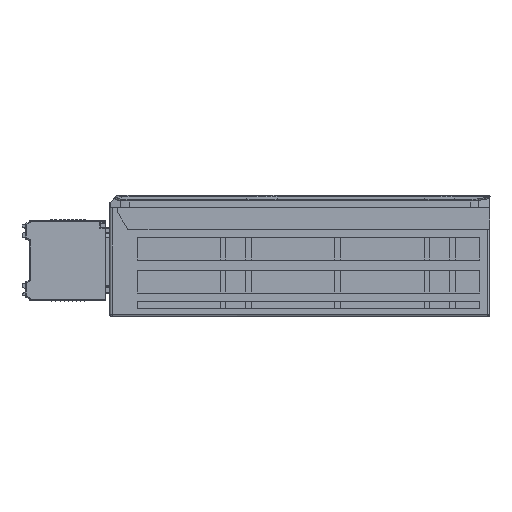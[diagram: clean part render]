
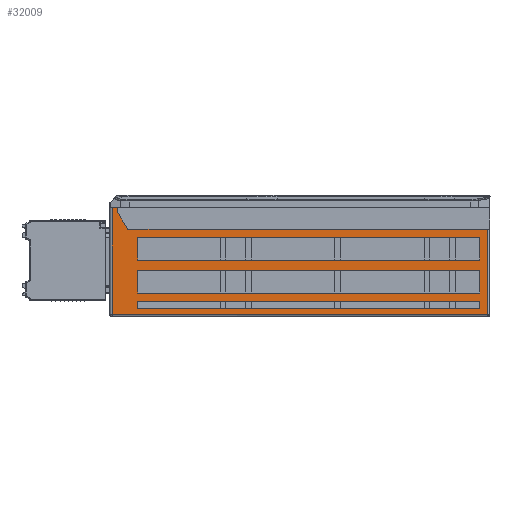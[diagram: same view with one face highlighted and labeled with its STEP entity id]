
A CAD part, left-side view. The second image highlights one B-rep face of the part: STEP entity #32009.
In plain terms, the highlighted planar face has unit normal (-1, 0, 0).
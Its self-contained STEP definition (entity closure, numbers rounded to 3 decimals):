
#727=DIRECTION('',(0.,1.,0.));
#728=VECTOR('',#727,1.1);
#729=CARTESIAN_POINT('',(0.,73.4,21.5));
#730=LINE('',#729,#728);
#6641=DIRECTION('',(0.,0.,-1.));
#6642=VECTOR('',#6641,21.);
#6643=CARTESIAN_POINT('',(0.,74.5,21.5));
#6644=LINE('',#6643,#6642);
#6649=DIRECTION('',(0.,0.53,0.848));
#6650=VECTOR('',#6649,3.774);
#6651=CARTESIAN_POINT('',(0.,71.4,17.3));
#6652=LINE('',#6651,#6650);
#6653=DIRECTION('',(0.,1.,0.));
#6654=VECTOR('',#6653,70.9);
#6655=CARTESIAN_POINT('',(0.,0.5,17.3));
#6656=LINE('',#6655,#6654);
#6657=DIRECTION('',(0.,-1.,0.));
#6658=VECTOR('',#6657,67.5);
#6659=CARTESIAN_POINT('',(0.,69.5,9.2));
#6660=LINE('',#6659,#6658);
#6661=DIRECTION('',(0.,1.,0.));
#6662=VECTOR('',#6661,67.5);
#6663=CARTESIAN_POINT('',(0.,2.,4.7));
#6664=LINE('',#6663,#6662);
#6665=DIRECTION('',(0.,0.,-1.));
#6666=VECTOR('',#6665,4.5);
#6667=CARTESIAN_POINT('',(0.,2.,9.2));
#6668=LINE('',#6667,#6666);
#6669=DIRECTION('',(0.,1.,0.));
#6670=VECTOR('',#6669,67.5);
#6671=CARTESIAN_POINT('',(0.,2.,1.6));
#6672=LINE('',#6671,#6670);
#6673=DIRECTION('',(0.,0.,-1.));
#6674=VECTOR('',#6673,1.5);
#6675=CARTESIAN_POINT('',(0.,2.,3.1));
#6676=LINE('',#6675,#6674);
#6677=DIRECTION('',(0.,-1.,0.));
#6678=VECTOR('',#6677,67.5);
#6679=CARTESIAN_POINT('',(0.,69.5,3.1));
#6680=LINE('',#6679,#6678);
#6685=DIRECTION('',(0.,0.,-1.));
#6686=VECTOR('',#6685,1.);
#6687=CARTESIAN_POINT('',(0.,73.4,21.5));
#6688=LINE('',#6687,#6686);
#7939=DIRECTION('',(0.,-1.,0.));
#7940=VECTOR('',#7939,74.);
#7941=CARTESIAN_POINT('',(0.,74.5,0.5));
#7942=LINE('',#7941,#7940);
#8008=CARTESIAN_POINT('',(0.,0.5,0.5));
#8010=DIRECTION('',(0.,0.,1.));
#8011=VECTOR('',#8010,16.8);
#8012=CARTESIAN_POINT('',(0.,0.5,0.5));
#8013=LINE('',#8012,#8011);
#12688=DIRECTION('',(0.,-1.,0.));
#12689=VECTOR('',#12688,67.5);
#12690=CARTESIAN_POINT('',(0.,69.5,15.7));
#12691=LINE('',#12690,#12689);
#12700=DIRECTION('',(0.,1.,0.));
#12701=VECTOR('',#12700,67.5);
#12702=CARTESIAN_POINT('',(0.,2.,11.2));
#12703=LINE('',#12702,#12701);
#12744=DIRECTION('',(0.,0.,1.));
#12745=VECTOR('',#12744,4.5);
#12746=CARTESIAN_POINT('',(0.,2.,11.2));
#12747=LINE('',#12746,#12745);
#12760=DIRECTION('',(0.,0.,-1.));
#12761=VECTOR('',#12760,4.5);
#12762=CARTESIAN_POINT('',(0.,69.5,15.7));
#12763=LINE('',#12762,#12761);
#13036=DIRECTION('',(0.,0.,-1.));
#13037=VECTOR('',#13036,4.5);
#13038=CARTESIAN_POINT('',(0.,69.5,9.2));
#13039=LINE('',#13038,#13037);
#13480=DIRECTION('',(0.,0.,-1.));
#13481=VECTOR('',#13480,1.5);
#13482=CARTESIAN_POINT('',(0.,69.5,3.1));
#13483=LINE('',#13482,#13481);
#20610=CARTESIAN_POINT('',(0.,0.5,17.3));
#20611=VERTEX_POINT('',#20610);
#20612=CARTESIAN_POINT('',(0.,71.4,17.3));
#20613=VERTEX_POINT('',#20612);
#20622=VERTEX_POINT('',#8008);
#20623=CARTESIAN_POINT('',(0.,74.5,0.5));
#20624=VERTEX_POINT('',#20623);
#20877=CARTESIAN_POINT('',(0.,2.,1.6));
#20878=VERTEX_POINT('',#20877);
#20879=CARTESIAN_POINT('',(0.,69.5,1.6));
#20880=VERTEX_POINT('',#20879);
#20969=CARTESIAN_POINT('',(0.,2.,3.1));
#20970=VERTEX_POINT('',#20969);
#20971=CARTESIAN_POINT('',(0.,69.5,3.1));
#20972=VERTEX_POINT('',#20971);
#21009=CARTESIAN_POINT('',(0.,2.,9.2));
#21010=VERTEX_POINT('',#21009);
#21011=CARTESIAN_POINT('',(0.,69.5,9.2));
#21012=VERTEX_POINT('',#21011);
#21045=CARTESIAN_POINT('',(0.,69.5,4.7));
#21046=VERTEX_POINT('',#21045);
#21047=CARTESIAN_POINT('',(0.,2.,4.7));
#21048=VERTEX_POINT('',#21047);
#21049=CARTESIAN_POINT('',(0.,73.4,21.5));
#21050=CARTESIAN_POINT('',(0.,73.4,20.5));
#21051=VERTEX_POINT('',#21049);
#21052=VERTEX_POINT('',#21050);
#21053=CARTESIAN_POINT('',(0.,74.5,21.5));
#21054=VERTEX_POINT('',#21053);
#21055=CARTESIAN_POINT('',(0.,69.5,15.7));
#21056=CARTESIAN_POINT('',(0.,2.,15.7));
#21057=VERTEX_POINT('',#21055);
#21058=VERTEX_POINT('',#21056);
#21059=CARTESIAN_POINT('',(0.,69.5,11.2));
#21060=VERTEX_POINT('',#21059);
#21061=CARTESIAN_POINT('',(0.,2.,11.2));
#21062=VERTEX_POINT('',#21061);
#31960=CARTESIAN_POINT('',(0.,37.5,11.));
#31961=DIRECTION('',(1.,0.,0.));
#31962=DIRECTION('',(0.,-1.,0.));
#31963=AXIS2_PLACEMENT_3D('',#31960,#31961,#31962);
#31964=PLANE('',#31963);
#31966=ORIENTED_EDGE('',*,*,#31965,.T.);
#31968=ORIENTED_EDGE('',*,*,#31967,.F.);
#31970=ORIENTED_EDGE('',*,*,#31969,.F.);
#31972=ORIENTED_EDGE('',*,*,#31971,.F.);
#31974=ORIENTED_EDGE('',*,*,#31973,.F.);
#31975=ORIENTED_EDGE('',*,*,#31952,.F.);
#31976=ORIENTED_EDGE('',*,*,#24352,.F.);
#31977=EDGE_LOOP('',(#31966,#31968,#31970,#31972,#31974,#31975,#31976));
#31978=FACE_OUTER_BOUND('',#31977,.F.);
#31980=ORIENTED_EDGE('',*,*,#31979,.F.);
#31982=ORIENTED_EDGE('',*,*,#31981,.T.);
#31984=ORIENTED_EDGE('',*,*,#31983,.F.);
#31986=ORIENTED_EDGE('',*,*,#31985,.T.);
#31987=EDGE_LOOP('',(#31980,#31982,#31984,#31986));
#31988=FACE_BOUND('',#31987,.F.);
#31990=ORIENTED_EDGE('',*,*,#31989,.F.);
#31992=ORIENTED_EDGE('',*,*,#31991,.T.);
#31994=ORIENTED_EDGE('',*,*,#31993,.F.);
#31996=ORIENTED_EDGE('',*,*,#31995,.F.);
#31997=EDGE_LOOP('',(#31990,#31992,#31994,#31996));
#31998=FACE_BOUND('',#31997,.F.);
#32000=ORIENTED_EDGE('',*,*,#31999,.F.);
#32002=ORIENTED_EDGE('',*,*,#32001,.F.);
#32004=ORIENTED_EDGE('',*,*,#32003,.F.);
#32006=ORIENTED_EDGE('',*,*,#32005,.T.);
#32007=EDGE_LOOP('',(#32000,#32002,#32004,#32006));
#32008=FACE_BOUND('',#32007,.F.);
#32009=ADVANCED_FACE('',(#31978,#31988,#31998,#32008),#31964,.F.);
#24352=EDGE_CURVE('',#21051,#21054,#730,.T.);
#31952=EDGE_CURVE('',#21054,#20624,#6644,.T.);
#31965=EDGE_CURVE('',#21051,#21052,#6688,.T.);
#31967=EDGE_CURVE('',#20613,#21052,#6652,.T.);
#31969=EDGE_CURVE('',#20611,#20613,#6656,.T.);
#31971=EDGE_CURVE('',#20622,#20611,#8013,.T.);
#31973=EDGE_CURVE('',#20624,#20622,#7942,.T.);
#31979=EDGE_CURVE('',#21057,#21058,#12691,.T.);
#31981=EDGE_CURVE('',#21057,#21060,#12763,.T.);
#31983=EDGE_CURVE('',#21062,#21060,#12703,.T.);
#31985=EDGE_CURVE('',#21062,#21058,#12747,.T.);
#31989=EDGE_CURVE('',#21012,#21010,#6660,.T.);
#31991=EDGE_CURVE('',#21012,#21046,#13039,.T.);
#31993=EDGE_CURVE('',#21048,#21046,#6664,.T.);
#31995=EDGE_CURVE('',#21010,#21048,#6668,.T.);
#31999=EDGE_CURVE('',#20878,#20880,#6672,.T.);
#32001=EDGE_CURVE('',#20970,#20878,#6676,.T.);
#32003=EDGE_CURVE('',#20972,#20970,#6680,.T.);
#32005=EDGE_CURVE('',#20972,#20880,#13483,.T.);
